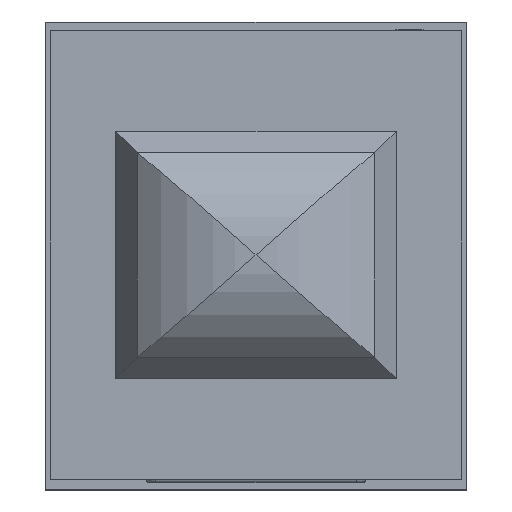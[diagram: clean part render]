
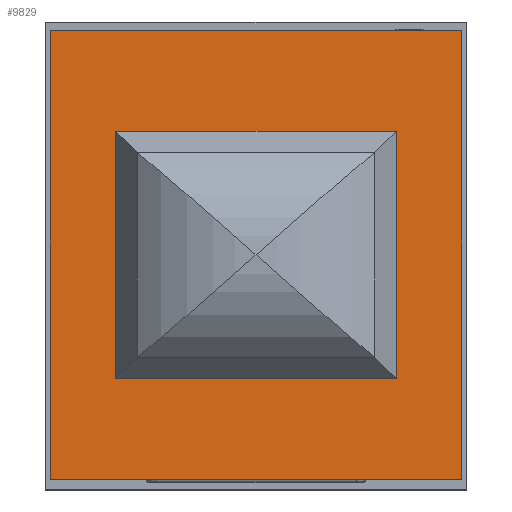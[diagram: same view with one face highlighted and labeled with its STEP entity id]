
A CAD part, top view. The second image highlights one B-rep face of the part: STEP entity #9829.
In plain terms, the highlighted planar face has unit normal (0, 0, 1).
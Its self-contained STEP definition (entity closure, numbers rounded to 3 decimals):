
#3495=ORIENTED_EDGE('',*,*,#4883,.T.);
#3496=ORIENTED_EDGE('',*,*,#4882,.T.);
#3497=ORIENTED_EDGE('',*,*,#4880,.F.);
#3498=ORIENTED_EDGE('',*,*,#4877,.F.);
#3499=ORIENTED_EDGE('',*,*,#4884,.F.);
#3500=ORIENTED_EDGE('',*,*,#4885,.F.);
#3501=ORIENTED_EDGE('',*,*,#4886,.F.);
#3502=ORIENTED_EDGE('',*,*,#4887,.F.);
#3503=ORIENTED_EDGE('',*,*,#4888,.F.);
#3504=ORIENTED_EDGE('',*,*,#4889,.T.);
#4877=EDGE_CURVE('',#5805,#5806,#6590,.T.);
#4880=EDGE_CURVE('',#5806,#5807,#6593,.T.);
#4882=EDGE_CURVE('',#5808,#5807,#6595,.T.);
#4883=EDGE_CURVE('',#5805,#5808,#6596,.T.);
#4884=EDGE_CURVE('',#5809,#5810,#6597,.T.);
#4885=EDGE_CURVE('',#5811,#5809,#6598,.T.);
#4886=EDGE_CURVE('',#5812,#5811,#6599,.T.);
#4887=EDGE_CURVE('',#5813,#5812,#6600,.T.);
#4888=EDGE_CURVE('',#5814,#5813,#6601,.T.);
#4889=EDGE_CURVE('',#5814,#5810,#6602,.T.);
#5805=VERTEX_POINT('',#21084);
#5806=VERTEX_POINT('',#21086);
#5807=VERTEX_POINT('',#21090);
#5808=VERTEX_POINT('',#21094);
#5809=VERTEX_POINT('',#21100);
#5810=VERTEX_POINT('',#21101);
#5811=VERTEX_POINT('',#21103);
#5812=VERTEX_POINT('',#21105);
#5813=VERTEX_POINT('',#21107);
#5814=VERTEX_POINT('',#21109);
#6590=LINE('',#21085,#7383);
#6593=LINE('',#21091,#7386);
#6595=LINE('',#21095,#7388);
#6596=LINE('',#21097,#7389);
#6597=LINE('',#21099,#7390);
#6598=LINE('',#21102,#7391);
#6599=LINE('',#21104,#7392);
#6600=LINE('',#21106,#7393);
#6601=LINE('',#21108,#7394);
#6602=LINE('',#21110,#7395);
#7383=VECTOR('',#15409,1000.);
#7386=VECTOR('',#15414,1000.);
#7388=VECTOR('',#15418,1000.);
#7389=VECTOR('',#15421,1000.);
#7390=VECTOR('',#15424,1000.);
#7391=VECTOR('',#15425,1000.);
#7392=VECTOR('',#15426,1000.);
#7393=VECTOR('',#15427,1000.);
#7394=VECTOR('',#15428,1000.);
#7395=VECTOR('',#15429,1000.);
#8137=EDGE_LOOP('',(#3495,#3496,#3497,#3498));
#8138=EDGE_LOOP('',(#3499,#3500,#3501,#3502,#3503,#3504));
#8872=FACE_BOUND('',#8137,.T.);
#8873=FACE_BOUND('',#8138,.T.);
#9250=PLANE('',#12962);
#9829=ADVANCED_FACE('',(#8872,#8873),#9250,.T.);
#12962=AXIS2_PLACEMENT_3D('',#21098,#15422,#15423);
#15409=DIRECTION('',(0.,1.,0.));
#15414=DIRECTION('',(-1.,0.,0.));
#15418=DIRECTION('',(0.,1.,0.));
#15421=DIRECTION('',(-1.,0.,0.));
#15422=DIRECTION('',(0.,0.,1.));
#15423=DIRECTION('',(1.,0.,0.));
#15424=DIRECTION('',(0.,-1.,0.));
#15425=DIRECTION('',(1.,0.,0.));
#15426=DIRECTION('',(0.,1.,0.));
#15427=DIRECTION('',(-1.,0.,0.));
#15428=DIRECTION('',(0.,-1.,0.));
#15429=DIRECTION('',(-1.,0.,0.));
#21084=CARTESIAN_POINT('',(370.,107.5,340.));
#21085=CARTESIAN_POINT('',(370.,50.383,340.));
#21086=CARTESIAN_POINT('',(370.,372.5,340.));
#21090=CARTESIAN_POINT('',(70.,372.5,340.));
#21091=CARTESIAN_POINT('',(420.,372.5,340.));
#21094=CARTESIAN_POINT('',(70.,107.5,340.));
#21095=CARTESIAN_POINT('',(70.,50.383,340.));
#21097=CARTESIAN_POINT('',(420.,107.5,340.));
#21098=CARTESIAN_POINT('',(440.,480.,340.));
#21099=CARTESIAN_POINT('',(440.,480.,340.));
#21100=CARTESIAN_POINT('',(440.,480.001,340.));
#21101=CARTESIAN_POINT('',(440.,480.,340.));
#21102=CARTESIAN_POINT('',(0.,480.001,340.));
#21103=CARTESIAN_POINT('',(-0.001,480.001,340.));
#21104=CARTESIAN_POINT('',(-0.001,0.,340.));
#21105=CARTESIAN_POINT('',(-0.001,-0.001,340.));
#21106=CARTESIAN_POINT('',(440.,-0.001,340.));
#21107=CARTESIAN_POINT('',(440.001,-0.001,340.));
#21108=CARTESIAN_POINT('',(440.001,480.,340.));
#21109=CARTESIAN_POINT('',(440.001,480.,340.));
#21110=CARTESIAN_POINT('',(440.001,480.,340.));
